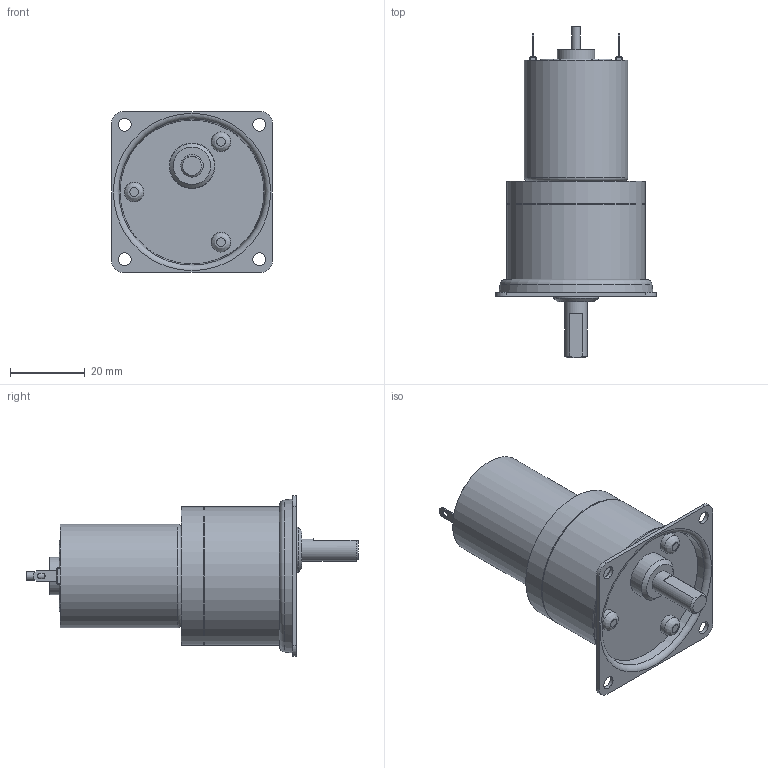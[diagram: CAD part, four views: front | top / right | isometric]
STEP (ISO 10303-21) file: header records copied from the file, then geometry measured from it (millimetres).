
FILE_DESCRIPTION((''),'2;1');
FILE_NAME('C:\Documents and Settings\SSEGAWA\デスクトップ\TP-2732D-PHM-3.STP','2013-07-01T13:54:23',('SSEGAWA'),(''),'Autodesk Inventor 2010','Autodesk Inventor 2010','');
FILE_SCHEMA(('CONFIG_CONTROL_DESIGN'));
Length unit declared in the file: millimetre
Products named in the file (5): tp_2732def_phm_3; phm_3; hm_3; □43; tp_2732d,e,f
Assembly tree (4 placements, depth 3):
  tp_2732def_phm_3
    phm_3
      hm_3
      □43
    tp_2732d,e,f
Bounding box: 43 x 88.8 x 43 mm (x, y, z)
Volume: 51071.4 mm3; surface area: 14852.7 mm2
Topology: 3 solids, 3 shells, 177 faces, 391 edges, 251 vertices
Faces by surface type: plane 96, cylinder 43, bspline 28, torus 6, cone 4
Full cylindrical faces by diameter (mm): 2 x2, 2.305 x2, 2.5 x5, 5.3 x3, 6 x1, 9 x2, 10 x2, 12 x1, 12.2 x1, 19 x1, 26.7 x1, 27.7 x1, 36.6 x1, 37 x2
Entity records: 4939 total; most frequent: CARTESIAN_POINT 1198, DIRECTION 765, ORIENTED_EDGE 636, EDGE_CURVE 318, AXIS2_PLACEMENT_3D 291, EDGE_LOOP 275, VERTEX_POINT 231, VECTOR 183
